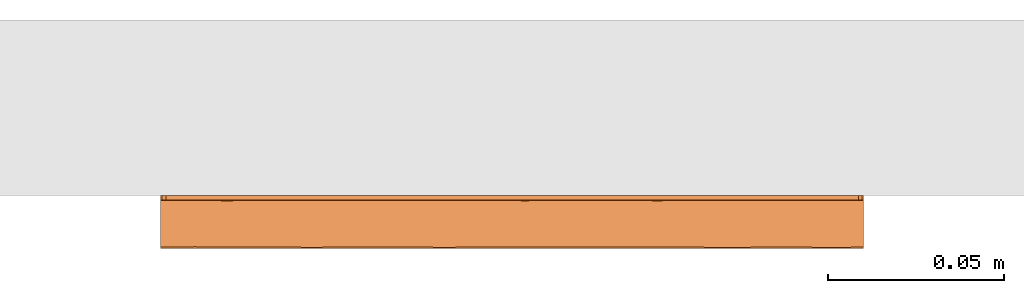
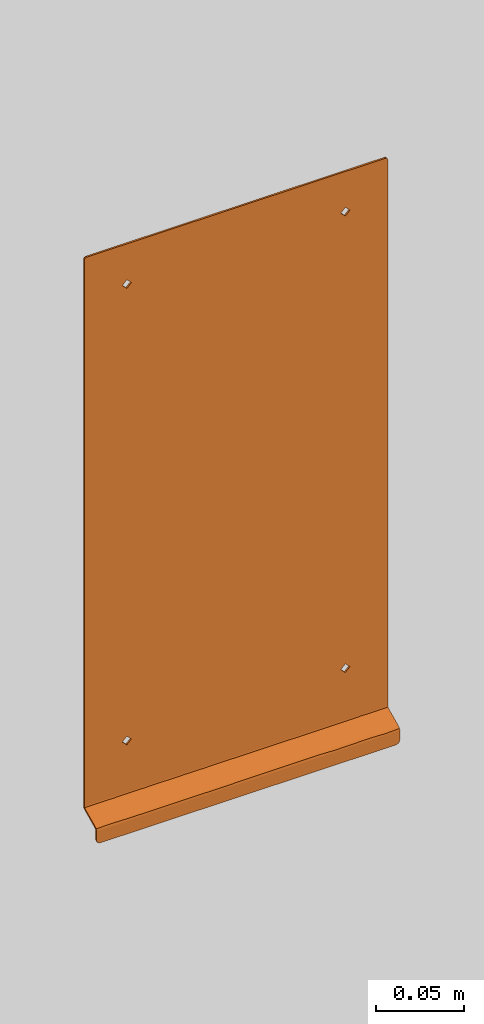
# One storey, part 2 of 2: 1 proxy.
"""IFC2X3 building model written with IfcOpenShell, lengths in millimetres."""

from ifc_helpers import new_model, entity, si_unit, converted_unit, derived_unit, direction, frame, origin, place, context, subcontext, project, spatial, faceted_brep, source, transform, mapped, element, save


model = new_model("IFC2X3")

# Units and contexts
model_context = context("Model", 3, precision=1e-05, world=origin(), true_north=direction((2.0, 6.12303176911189e-17, 1.0)))
context_of_model = context(None, 3, precision=1e-05, world=origin(), true_north=direction((2.0, 6.12303176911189e-17, 1.0)))
body_context = subcontext(model_context, "Body", "Model", "MODEL_VIEW")
ifc_project = project(units=[si_unit("LENGTHUNIT", "METRE", prefix="MILLI"), si_unit("AREAUNIT", "SQUARE_METRE"), si_unit("VOLUMEUNIT", "CUBIC_METRE"), converted_unit("PLANEANGLEUNIT", "DEGREE", entity("IfcRatioMeasure", 0.0174532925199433), si_unit("PLANEANGLEUNIT", "RADIAN"), dimensions=[0, 0, 0, 0, 0, 0, 0]), si_unit("MASSUNIT", "GRAM", prefix="KILO"), si_unit("TIMEUNIT", "SECOND"), si_unit("THERMODYNAMICTEMPERATUREUNIT", "KELVIN"), derived_unit("THERMALTRANSMITTANCEUNIT", [(si_unit("MASSUNIT", "GRAM", prefix="KILO"), 1), (si_unit("THERMODYNAMICTEMPERATUREUNIT", "KELVIN"), -1), (si_unit("TIMEUNIT", "SECOND"), -3)]), derived_unit("VOLUMETRICFLOWRATEUNIT", [(si_unit("LENGTHUNIT", "METRE"), 3), (si_unit("TIMEUNIT", "SECOND"), -1)]), si_unit("POWERUNIT", "WATT")], contexts=[model_context, context_of_model])

# Site, building, storey
site_placement = place(None, origin())
site = spatial("IfcSite", under=ifc_project, at=site_placement, Name="Default", CompositionType="ELEMENT")
building_placement = place(site_placement, origin())
building = spatial("IfcBuilding", under=site, at=building_placement, CompositionType="ELEMENT")
storey_placement = place(building_placement, origin())
storey = spatial("IfcBuildingStorey", under=building, at=storey_placement, Name="Level 1", CompositionType="ELEMENT", Elevation=0.0)

# Proxy
shared_shape = source(origin(), body_context, "Body", "Brep", [
    faceted_brep([(-100.0, -14.6113849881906, 10.352424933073), (-100.0, -13.5672608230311, 11.2680972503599), (-100.0, -1.94926779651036, 16.6856563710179), (-100.0, -1.40323078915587, 17.1645179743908), (-100.0, -1.2000000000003, 17.8617712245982), (-100.0, -1.20000000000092, 398.477823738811), (-100.0, 0.0, 398.477823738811), (-100.0, 0.0, 17.8617712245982), (-100.0, -0.391161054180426, 16.5197584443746), (-100.0, -1.44212588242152, 15.5980870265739), (-100.0, -13.0601189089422, 10.1805279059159), (-100.0, -13.5993152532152, 9.70766540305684), (-100.0, -13.8000000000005, 9.01914722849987), (-100.0, -13.8000000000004, 2.51072830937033), (-100.0, -15.0, 2.51072830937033), (-100.0, -15.0, 9.01914722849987), (100.0, 0.0, 17.8617712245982), (100.0, 0.0, 398.548714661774), (100.0, -1.19999999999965, 398.548714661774), (100.0, -1.19999999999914, 17.8617712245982), (100.0, -1.4032307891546, 17.1645179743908), (100.0, -1.94926779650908, 16.6856563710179), (100.0, -13.5672608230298, 11.2680972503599), (100.0, -14.6113849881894, 10.352424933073), (100.0, -15.0, 9.01914722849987), (100.0, -15.0, 2.47573554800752), (100.0, -13.7999999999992, 2.47573554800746), (100.0, -13.7999999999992, 9.01914722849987), (100.0, -13.5993152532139, 9.70766540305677), (100.0, -13.060118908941, 10.1805279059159), (100.0, -1.44212588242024, 15.5980870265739), (100.0, -0.391161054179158, 16.5197584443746), (-98.4778237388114, 0.0, 400.0), (-98.4778237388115, -1.20000000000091, 400.0), (98.5487146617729, -1.19999999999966, 400.0), (98.5487146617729, 0.0, 400.0), (-99.5541648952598, 0.0, 399.554164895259), (-72.0, 0.0, 375.0), (-75.0, 0.0, 372.0), (-75.0, 0.0, 54.0), (72.0, 0.0, 375.0), (99.5749283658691, 0.0, 399.57492836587), (75.0, 0.0, 372.0), (75.0, 0.0, 54.0), (72.0, 0.0, 51.0), (86.2041782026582, 0.0, 17.8617712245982), (77.5916418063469, 0.0, 17.8617712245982), (66.387463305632, 0.0, 17.8617712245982), (55.1832848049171, 0.0, 17.8617712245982), (43.9791063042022, 0.0, 17.8617712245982), (32.7749278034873, 0.0, 17.8617712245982), (21.5707493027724, 0.0, 17.8617712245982), (10.3665696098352, 0.0, 17.8617712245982), (-3.42925099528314, 0.0, 17.8617712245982), (-17.2250727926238, 0.0, 17.8617712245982), (-31.0208945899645, 0.0, 17.8617712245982), (-44.8167151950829, 0.0, 17.8617712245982), (-58.6125358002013, 0.0, 17.8617712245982), (-72.408357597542, 0.0, 17.8617712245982), (-86.2041793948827, 0.0, 17.8617712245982), (-72.0, 0.0, 51.0), (69.0, 0.0, 54.0), (72.0, 0.0, 369.0), (72.0, 0.0, 57.0), (-69.0, 0.0, 54.0), (-72.0, 0.0, 57.0), (-72.0, 0.0, 369.0), (-69.0, 0.0, 372.0), (69.0, 0.0, 372.0), (86.2041786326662, -1.44212588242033, 15.5980870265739), (-79.3062684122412, -0.391161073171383, 16.5197584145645), (81.8979095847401, -0.391161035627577, 16.5197584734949), (5.74472823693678, -0.413236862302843, 16.4857196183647), (-5.60209085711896, -0.442536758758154, 16.4423316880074), (60.7853724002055, -0.339568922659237, 16.6044029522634), (-51.0858661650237, -0.391161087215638, 16.5197583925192), (37.9117930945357, -0.343484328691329, 16.5977065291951), (50.0000002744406, -1.44212588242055, 15.5980870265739), (37.500000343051, -1.44212588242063, 15.5980870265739), (-27.3344386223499, -0.41138728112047, 16.4885254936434), (-39.2146266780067, -0.39116108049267, 16.519758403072), (25.0000004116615, -1.44212588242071, 15.5980870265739), (27.1728358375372, -0.342700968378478, 16.5990424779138), (-11.2041779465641, -1.44212588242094, 15.5980870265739), (5.48882311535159e-07, -1.44212588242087, 15.5980870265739), (16.4381053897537, -0.343305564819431, 16.5980112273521), (-44.8167145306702, -1.44212588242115, 15.5980870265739), (-58.612535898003, -1.44212588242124, 15.5980870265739), (-89.6531342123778, -0.415703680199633, 16.481990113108), (-16.3580350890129, -0.440851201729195, 16.4447752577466), (75.0, -1.4421258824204, 15.5980870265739), (62.5000002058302, -1.44212588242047, 15.5980870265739), (71.3549565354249, -0.336331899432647, 16.6099754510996), (-72.4083572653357, -1.44212588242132, 15.5980870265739), (-86.2041786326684, -1.44212588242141, 15.5980870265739), (50.0514557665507, -0.343281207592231, 16.5980527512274), (12.5000004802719, -1.44212588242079, 15.5980870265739), (-22.4083564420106, -1.44212588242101, 15.5980870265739), (-65.5104474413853, -0.391161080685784, 16.5197584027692), (-33.612534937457, -1.44212588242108, 15.5980870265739), (95.0592034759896, -13.060118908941, 10.1805279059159), (87.4999988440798, -13.060118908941, 10.1805279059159), (81.2499989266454, -13.0601189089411, 10.1805279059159), (74.9999990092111, -13.0601189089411, 10.1805279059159), (68.7499990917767, -13.0601189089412, 10.1805279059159), (62.4999991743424, -13.0601189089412, 10.1805279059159), (56.2499992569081, -13.0601189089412, 10.1805279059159), (49.9999993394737, -13.0601189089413, 10.1805279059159), (43.7499994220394, -13.0601189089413, 10.1805279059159), (37.499999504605, -13.0601189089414, 10.1805279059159), (31.2499995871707, -13.0601189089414, 10.1805279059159), (24.9999996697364, -13.0601189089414, 10.1805279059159), (18.749999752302, -13.0601189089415, 10.1805279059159), (12.4999998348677, -13.0601189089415, 10.1805279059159), (6.24999991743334, -13.0601189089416, 10.1805279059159), (0.0, -13.0601189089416, 10.1805279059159), (-7.5592046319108, -13.0601189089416, 10.1805279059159), (-15.11840794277, -13.0601189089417, 10.1805279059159), (-22.6776112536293, -13.0601189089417, 10.1805279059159), (-30.236815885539, -13.0601189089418, 10.1805279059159), (-37.7960205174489, -13.0601189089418, 10.1805279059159), (-45.3552238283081, -13.0601189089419, 10.1805279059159), (-52.9144271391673, -13.0601189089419, 10.1805279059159), (-60.4736317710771, -13.060118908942, 10.1805279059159), (-65.414426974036, -13.060118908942, 10.1805279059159), (-70.3552234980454, -13.060118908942, 10.1805279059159), (-75.2960200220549, -13.0601189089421, 10.1805279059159), (-80.2368152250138, -13.0601189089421, 10.1805279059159), (-85.1776117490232, -13.0601189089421, 10.1805279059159), (-90.1184082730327, -13.0601189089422, 10.1805279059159), (-95.0592034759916, -13.0601189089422, 10.1805279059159), (62.9440280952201, -13.6203383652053, 9.67349694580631), (57.2274896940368, -13.6328809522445, 9.651901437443), (-46.84345592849, -13.5913744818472, 9.71997410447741), (-41.5756216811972, -13.5609737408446, 9.76444107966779), (-47.0855721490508, -13.8000000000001, 9.01914722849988), (9.37499910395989, -13.6094500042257, 9.69149249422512), (20.947262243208, -13.7999999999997, 9.01914722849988), (14.9255129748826, -13.5862820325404, 9.72770837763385), (21.8749990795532, -13.5656196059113, 9.75789989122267), (90.1184088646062, -13.7999999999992, 9.01914722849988), (92.5888056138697, -13.5993152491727, 9.70766540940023), (95.0592038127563, -13.7999999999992, 9.01914722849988), (34.3749990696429, -13.609449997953, 9.69149250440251), (-51.8171188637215, -13.6648954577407, 9.59186354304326), (-84.8815922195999, -13.8000000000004, 9.01914722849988), (-87.5000000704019, -13.5993152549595, 9.70766540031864), (-81.776796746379, -13.6250360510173, 9.66552161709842), (-16.6066408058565, -13.5913744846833, 9.71997410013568), (-11.3388065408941, -13.5609737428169, 9.76444107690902), (-16.8487565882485, -13.7999999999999, 9.01914722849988), (60.4736317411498, -13.7999999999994, 9.01914722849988), (3.12499913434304, -13.5902637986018, 9.72167138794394), (-2.32127292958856, -13.5805386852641, 9.73628775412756), (-21.5803037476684, -13.664895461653, 9.59186353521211), (-93.0489290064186, -13.5993152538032, 9.70766540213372), (30.8288546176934, -13.7999999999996, 9.01914722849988), (27.792233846, -13.6044838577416, 9.69948431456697), (-31.7250483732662, -13.5913744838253, 9.71997410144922), (-26.457214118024, -13.5609737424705, 9.76444107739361), (-31.9671656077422, -13.8, 9.01914722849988), (-1.73035004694, -13.7999999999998, 9.01914722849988), (-66.6077467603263, -13.5841456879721, 9.73091712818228), (-62.2039811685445, -13.8000000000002, 9.01914722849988), (-69.7631844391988, -13.8000000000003, 9.01914722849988), (86.9336049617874, -13.6336858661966, 9.65048182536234), (-36.6987113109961, -13.6648954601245, 9.59186353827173), (-72.8256214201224, -13.611108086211, 9.68879477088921), (39.8315585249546, -13.581963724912, 9.73417294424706), (67.7323223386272, -13.6639573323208, 9.59373744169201), (78.1249995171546, -13.579523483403, 9.73778883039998), (80.2368164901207, -13.7999999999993, 9.01914722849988), (75.296020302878, -13.7999999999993, 9.01914722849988), (-90.1184076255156, -13.8000000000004, 9.01914722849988), (-95.0592038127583, -13.8000000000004, 9.01914722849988), (-77.322387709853, -13.8000000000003, 9.01914722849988), (85.1776126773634, -13.7999999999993, 9.01914722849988), (-61.6512479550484, -13.5717086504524, 9.74919326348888), (-56.6940292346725, -13.5609737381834, 9.76444108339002), (-54.6447766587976, -13.8000000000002, 9.01914722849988), (13.3880589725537, -13.7999999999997, 9.01914722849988), (5.82885446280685, -13.7999999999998, 9.01914722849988), (-9.28955331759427, -13.7999999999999, 9.01914722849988), (72.4522755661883, -13.5916082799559, 9.7196160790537), (65.4144279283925, -13.7999999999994, 9.01914722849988), (70.3552241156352, -13.7999999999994, 9.01914722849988), (48.1216394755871, -13.6086118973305, 9.69285044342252), (55.5328355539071, -13.7999999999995, 9.01914722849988), (50.5920393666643, -13.7999999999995, 9.01914722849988), (25.8880584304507, -13.7999999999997, 9.01914722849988), (40.7104469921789, -13.7999999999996, 9.01914722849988), (35.7696508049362, -13.7999999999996, 9.01914722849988), (45.6512431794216, -13.7999999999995, 9.01914722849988), (-24.4079610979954, -13.8, 9.01914722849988), (-39.5263688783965, -13.8000000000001, 9.01914722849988), (99.2748738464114, -13.7999999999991, 0.725126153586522), (97.5242644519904, -13.7999999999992, 0.0), (-97.4892716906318, -13.8000000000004, 0.0), (-99.2646247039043, -13.8000000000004, 0.735375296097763), (-97.4892716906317, -15.0, 0.0), (97.5242644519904, -15.0, 0.0), (-99.2646247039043, -15.0, 0.735375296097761), (99.2748738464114, -15.0, 0.725126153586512), (86.2491501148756, -15.0, 9.01914722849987), (72.4983002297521, -15.0, 9.01914722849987), (61.2491501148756, -15.0, 9.01914722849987), (50.0, -15.0, 9.01914722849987), (37.499999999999, -15.0, 9.01914722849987), (25.0, -15.0, 9.01914722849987), (12.499999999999, -15.0, 9.01914722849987), (0.0, -15.0, 9.01914722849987), (-12.500000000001, -15.0, 9.01914722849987), (-25.0, -15.0, 9.01914722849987), (-37.500000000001, -15.0, 9.01914722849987), (-50.0, -15.0, 9.01914722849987), (-62.500000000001, -15.0, 9.01914722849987), (-75.0, -15.0, 9.01914722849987), (-86.2491501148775, -15.0, 9.01914722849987), (-17.4949003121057, -13.5672608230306, 11.2680972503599), (-18.7500017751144, -14.6790744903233, 10.2396892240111), (-7.8459400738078, -14.6204493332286, 10.3380888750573), (66.8737217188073, -14.6682279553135, 10.2586928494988), (57.7320580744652, -14.7197556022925, 10.1646966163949), (27.3299450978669, -14.5701874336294, 10.4149877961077), (21.2559499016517, -13.5672608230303, 11.2680972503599), (15.6313716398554, -14.5692460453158, 10.4163704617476), (-56.2500010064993, -14.6709831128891, 10.2539024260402), (77.5016998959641, -13.5672608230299, 11.2680972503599), (81.8754205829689, -14.6113850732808, 10.3524247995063), (86.2491503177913, -13.5672608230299, 11.2680972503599), (66.2525501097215, -13.56726082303, 11.2680972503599), (55.0033997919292, -13.5672608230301, 11.2680972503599), (48.8133075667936, -14.564581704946, 10.4231918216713), (-44.9966002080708, -13.5672608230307, 11.2680972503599), (-58.7474498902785, -13.5672608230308, 11.2680972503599), (-45.7842363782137, -14.643097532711, 10.301288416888), (43.7542494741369, -13.5672608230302, 11.2680972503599), (38.1296711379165, -14.5504791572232, 10.443524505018), (4.41972758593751, -14.5890820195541, 10.3868038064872), (90.9377104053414, -14.7489889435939, 10.1066821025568), (-80.6245755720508, -14.6113849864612, 10.3524249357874), (-29.297370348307, -14.6385870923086, 10.3087327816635), (-90.3122877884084, -14.5204693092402, 10.4854027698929), (-69.7785878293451, -14.6480014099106, 10.2931272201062), (-72.4983001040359, -13.5672608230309, 11.2680972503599), (-86.2491503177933, -13.567260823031, 11.2680972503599), (32.5050996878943, -13.5672608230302, 11.2680972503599), (10.0067995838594, -13.5672608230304, 11.2680972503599), (-3.74405009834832, -13.5672608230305, 11.2680972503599), (-31.2457505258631, -13.5672608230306, 11.2680972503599), (95.0279613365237, -1.94926779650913, 16.6856563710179), (87.4999999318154, -1.94926779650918, 16.6856563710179), (81.2500000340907, -1.94926779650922, 16.6856563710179), (75.0, -1.94926779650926, 16.6856563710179), (68.7499999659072, -1.9492677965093, 16.6856563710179), (62.5000000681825, -1.94926779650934, 16.6856563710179), (56.2499998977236, -1.94926779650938, 16.6856563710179), (50.0, -1.94926779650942, 16.6856563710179), (43.7500001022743, -1.94926779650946, 16.6856563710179), (37.4999999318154, -1.9492677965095, 16.6856563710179), (31.2500000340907, -1.94926779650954, 16.6856563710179), (25.000000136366, -1.94926779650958, 16.6856563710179), (18.7499999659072, -1.94926779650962, 16.6856563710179), (12.5000000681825, -1.94926779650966, 16.6856563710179), (6.2500001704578, -1.9492677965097, 16.6856563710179), (0.0, -1.94926779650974, 16.6856563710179), (-6.25000017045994, -1.94926779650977, 16.6856563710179), (-12.5000000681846, -1.94926779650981, 16.6856563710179), (-18.7499999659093, -1.94926779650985, 16.6856563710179), (-25.0000001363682, -1.94926779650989, 16.6856563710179), (-31.2500000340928, -1.94926779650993, 16.6856563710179), (-37.4999999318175, -1.94926779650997, 16.6856563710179), (-43.7500001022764, -1.94926779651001, 16.6856563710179), (-50.0, -1.94926779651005, 16.6856563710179), (-57.5279614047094, -1.9492677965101, 16.6856563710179), (-65.0559225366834, -1.94926779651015, 16.6856563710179), (-72.5838836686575, -1.9492677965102, 16.6856563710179), (-80.1118448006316, -1.94926779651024, 16.6856563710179), (-85.0838834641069, -1.94926779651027, 16.6856563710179), (-90.0559224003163, -1.94926779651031, 16.6856563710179), (-95.0279613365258, -1.94926779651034, 16.6856563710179), (-21.8750009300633, -1.43194915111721, 17.1213659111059), (-20.4473798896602, -1.1999999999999, 17.8617712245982), (-25.4194189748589, -1.19999999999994, 17.8617712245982), (65.6249985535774, -1.40002256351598, 17.1695796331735), (71.0193015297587, -1.42882008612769, 17.1258903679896), (87.4999992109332, -1.38031301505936, 17.2018687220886), (84.9440773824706, -1.19999999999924, 17.8617712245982), (81.7738721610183, -1.36940774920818, 17.2206927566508), (-76.34786461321, -1.40323078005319, 17.1645179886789), (-67.6817482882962, -1.40581414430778, 17.1604794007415), (-70.1677675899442, -1.20000000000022, 17.8617712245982), (-85.7815899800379, -1.40323078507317, 17.1645179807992), (-92.5419419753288, -1.4032307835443, 17.1645179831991), (15.6249986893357, -1.43034900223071, 17.1236745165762), (9.66446534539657, -1.19999999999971, 17.8617712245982), (10.1061282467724, -1.42362813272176, 17.1334893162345), (-2.75304994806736, -1.40546410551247, 17.1610246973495), (-8.78564918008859, -1.3852620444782, 17.1935596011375), (34.7775949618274, -1.40690198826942, 17.1587885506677), (40.6249985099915, -1.43701770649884, 17.1141229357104), (-60.2236899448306, -1.20000000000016, 17.8617712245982), (-65.1957285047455, -1.20000000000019, 17.8617712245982), (-59.6194464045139, -1.41791532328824, 17.1419865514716), (-55.2516513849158, -1.20000000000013, 17.8617712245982), (-40.3355351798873, -1.20000000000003, 17.8617712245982), (-45.3075737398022, -1.20000000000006, 17.8617712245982), (-39.8612584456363, -1.42293235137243, 17.1345165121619), (-35.3634960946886, -1.2, 17.8617712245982), (3.12499880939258, -1.43602595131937, 17.1155319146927), (95.0279609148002, -1.19999999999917, 17.8617712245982), (-95.0279609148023, -1.20000000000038, 17.8617712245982), (28.6981164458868, -1.38181921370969, 17.1993249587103), (53.1249984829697, -1.42860521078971, 17.1262025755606), (47.6113126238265, -1.42391432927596, 17.1330674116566), (-54.169879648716, -1.38954564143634, 17.1864795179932), (-15.6250010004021, -1.41213223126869, 17.1507384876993), (23.2170823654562, -1.40655499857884, 17.1593272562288), (24.7203879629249, -1.19999999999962, 17.8617712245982), (90.0559223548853, -1.1999999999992, 17.8617712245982), (94.755309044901, -1.40323079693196, 17.1645179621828), (-81.0647272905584, -1.44928433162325, 17.0970167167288), (-80.1118447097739, -1.20000000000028, 17.8617712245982), (-85.0838837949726, -1.20000000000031, 17.8617712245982), (-90.0559223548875, -1.20000000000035, 17.8617712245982), (76.419132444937, -1.40692229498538, 17.1587570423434), (77.4161160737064, -1.19999999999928, 17.8617712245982), (69.8881547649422, -1.19999999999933, 17.8617712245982), (59.7343899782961, -1.40595585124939, 17.1602588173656), (2.13650403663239, -1.19999999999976, 17.8617712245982), (-5.39145727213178, -1.19999999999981, 17.8617712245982), (-34.3750008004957, -1.3817817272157, 17.1993881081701), (-27.7563293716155, -1.40559223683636, 17.1608250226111), (-75.1398061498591, -1.20000000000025, 17.8617712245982), (62.360193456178, -1.19999999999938, 17.8617712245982), (54.8322321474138, -1.19999999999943, 17.8617712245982), (47.3042708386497, -1.19999999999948, 17.8617712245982), (32.2483492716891, -1.19999999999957, 17.8617712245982), (39.7763100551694, -1.19999999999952, 17.8617712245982), (17.1924266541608, -1.19999999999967, 17.8617712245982), (-12.919418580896, -1.19999999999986, 17.8617712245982), (-30.3914575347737, -1.19999999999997, 17.8617712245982), (-50.279612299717, -1.20000000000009, 17.8617712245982), (-47.7935934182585, -1.39852685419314, 17.1719572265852), (-75.0, -1.2000000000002, 54.0), (-75.0, -1.20000000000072, 372.0), (-72.0, -1.2000000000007, 375.0), (-99.5541648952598, -1.20000000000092, 399.554164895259), (-72.0, -1.20000000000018, 51.0), (72.0, -1.19999999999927, 51.0), (75.0, -1.19999999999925, 54.0), (75.0, -1.19999999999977, 372.0), (72.0, -1.19999999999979, 375.0), (99.5749283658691, -1.19999999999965, 399.57492836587), (69.0, -1.1999999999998, 372.0), (72.0, -1.19999999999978, 369.0), (72.0, -1.19999999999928, 57.0), (-72.0, -1.20000000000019, 57.0), (-72.0, -1.20000000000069, 369.0), (-69.0, -1.20000000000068, 372.0), (-69.0, -1.20000000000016, 54.0), (69.0, -1.19999999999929, 54.0)], [[[0, 1, 2, 3, 4, 5, 6, 7, 8, 9, 10, 11, 12, 13, 14, 15]], [[16, 17, 18, 19, 20, 21, 22, 23, 24, 25, 26, 27, 28, 29, 30, 31]], [[32, 33, 34, 35]], [[6, 36, 32]], [[6, 32, 37]], [[37, 38, 6]], [[6, 38, 39]], [[6, 39, 7]], [[32, 40, 37]], [[40, 32, 35]], [[35, 17, 40]], [[35, 41, 17]], [[42, 40, 17]], [[42, 17, 43]], [[43, 17, 16]], [[43, 16, 44]], [[44, 16, 45]], [[44, 45, 46]], [[44, 46, 47]], [[44, 47, 48]], [[44, 48, 49]], [[44, 49, 50]], [[44, 50, 51]], [[44, 51, 52]], [[44, 52, 53]], [[44, 53, 54]], [[44, 54, 55]], [[44, 55, 56]], [[44, 56, 57]], [[44, 57, 58]], [[44, 58, 59]], [[44, 59, 7]], [[7, 39, 60]], [[7, 60, 44]], [[44, 60, 61]], [[42, 43, 62]], [[62, 43, 63]], [[64, 63, 61]], [[65, 63, 64]], [[62, 63, 65]], [[39, 66, 65]], [[62, 65, 66]], [[39, 38, 66]], [[62, 66, 67]], [[67, 37, 68]], [[67, 68, 62]], [[40, 68, 37]], [[61, 60, 64]], [[45, 16, 31]], [[31, 30, 69]], [[70, 59, 58]], [[69, 71, 31]], [[53, 72, 73]], [[74, 48, 47]], [[56, 75, 57]], [[72, 53, 52]], [[76, 77, 78]], [[55, 54, 79]], [[55, 79, 80]], [[81, 82, 78]], [[73, 54, 53]], [[83, 73, 84]], [[85, 51, 82]], [[86, 87, 75, 80]], [[88, 9, 8]], [[70, 88, 59]], [[73, 83, 89]], [[90, 91, 92]], [[71, 46, 45]], [[7, 59, 88]], [[70, 93, 94]], [[31, 71, 45]], [[90, 71, 69]], [[91, 74, 92]], [[71, 92, 46]], [[74, 77, 95]], [[54, 73, 89]], [[51, 85, 52]], [[96, 72, 85]], [[84, 73, 72]], [[96, 84, 72]], [[83, 97, 89]], [[50, 82, 51]], [[79, 54, 89]], [[79, 89, 97]], [[50, 76, 82]], [[85, 81, 96]], [[78, 82, 76]], [[58, 57, 98]], [[55, 80, 56]], [[74, 95, 48]], [[86, 80, 99]], [[93, 98, 75, 87]], [[79, 97, 99]], [[79, 99, 80]], [[80, 75, 56]], [[85, 82, 81]], [[52, 85, 72]], [[50, 49, 76]], [[76, 49, 95]], [[74, 47, 92]], [[77, 74, 91]], [[76, 95, 77]], [[49, 48, 95]], [[46, 92, 47]], [[90, 92, 71]], [[70, 94, 88]], [[98, 70, 58]], [[98, 93, 70]], [[75, 98, 57]], [[9, 88, 94]], [[88, 8, 7]], [[9, 94, 93, 87, 86, 99, 97, 83, 84, 96, 81, 78, 77, 91, 90, 69, 30, 29, 100, 101, 102, 103, 104, 105, 106, 107, 108, 109, 110, 111, 112, 113, 114, 115, 116, 117, 118, 119, 120, 121, 122, 123, 124, 125, 126, 127, 128, 129, 130, 10]], [[105, 131, 132]], [[133, 134, 135]], [[114, 113, 136]], [[137, 138, 139]], [[140, 141, 142]], [[142, 141, 28]], [[110, 109, 143]], [[100, 28, 141]], [[133, 135, 144]], [[145, 146, 147]], [[148, 149, 150]], [[151, 132, 131]], [[152, 153, 115]], [[148, 150, 154]], [[129, 128, 146, 155, 11, 10, 130]], [[100, 29, 28]], [[156, 157, 143]], [[158, 159, 160]], [[153, 152, 161]], [[162, 163, 164]], [[152, 115, 114]], [[165, 101, 141]], [[138, 136, 113]], [[158, 160, 166]], [[126, 167, 147]], [[143, 109, 168]], [[104, 169, 131]], [[114, 136, 152]], [[170, 171, 172]], [[146, 145, 173, 174, 12, 11, 155]], [[28, 27, 142]], [[141, 140, 165]], [[170, 102, 165]], [[102, 170, 103]], [[148, 118, 117]], [[158, 120, 119]], [[146, 128, 147]], [[100, 141, 101]], [[162, 164, 167]], [[167, 175, 147]], [[176, 171, 165, 140]], [[102, 101, 165]], [[147, 175, 145]], [[162, 124, 177]], [[126, 125, 167]], [[126, 147, 128, 127]], [[167, 164, 175]], [[178, 179, 163]], [[125, 162, 167]], [[177, 178, 163]], [[136, 180, 181]], [[180, 136, 138]], [[181, 161, 152]], [[161, 182, 153]], [[181, 152, 136]], [[172, 183, 170]], [[183, 103, 170]], [[116, 149, 117]], [[118, 159, 119]], [[120, 134, 121]], [[171, 170, 165]], [[184, 151, 131]], [[105, 104, 131]], [[104, 103, 183]], [[185, 169, 183]], [[169, 184, 131]], [[186, 168, 108]], [[107, 132, 186]], [[132, 107, 106, 105]], [[187, 188, 132, 151]], [[153, 116, 115]], [[149, 116, 153]], [[111, 157, 139]], [[138, 137, 180]], [[112, 139, 138]], [[111, 139, 112]], [[138, 113, 112]], [[157, 189, 139]], [[190, 191, 168, 192]], [[157, 110, 143]], [[157, 111, 110]], [[143, 168, 191]], [[172, 185, 183]], [[192, 186, 188]], [[188, 186, 132]], [[168, 109, 108]], [[168, 186, 192]], [[107, 186, 108]], [[184, 169, 185]], [[183, 169, 104]], [[182, 149, 153]], [[148, 117, 149]], [[149, 182, 150]], [[159, 193, 160]], [[134, 194, 135]], [[154, 159, 118]], [[193, 159, 154]], [[158, 119, 159]], [[166, 134, 120]], [[133, 122, 121]], [[194, 134, 166]], [[133, 121, 134]], [[122, 178, 123]], [[144, 178, 122]], [[177, 123, 178]], [[179, 178, 144]], [[193, 154, 150]], [[148, 154, 118]], [[194, 166, 160]], [[158, 166, 120]], [[179, 144, 135]], [[133, 144, 122]], [[137, 139, 189]], [[157, 156, 189]], [[162, 177, 163]], [[191, 156, 143]], [[123, 177, 124]], [[162, 125, 124]], [[13, 12, 174, 173, 145, 175, 164, 163, 179, 135, 194, 160, 193, 150, 182, 161, 181, 180, 137, 189, 156, 191, 190, 192, 188, 187, 151, 184, 185, 172, 171, 176, 140, 142, 27, 26, 195, 196, 197, 198]], [[199, 197, 196, 200]], [[201, 199, 200, 202, 25, 24, 203, 204, 205, 206, 207, 208, 209, 210, 211, 212, 213, 214, 215, 216, 217, 15, 14]], [[218, 219, 220]], [[205, 221, 222]], [[223, 224, 225]], [[214, 226, 215]], [[227, 228, 229]], [[227, 230, 221]], [[231, 232, 222]], [[233, 234, 226]], [[226, 235, 233]], [[232, 236, 237]], [[209, 225, 238]], [[228, 203, 239]], [[216, 240, 217]], [[241, 235, 213]], [[15, 217, 242]], [[240, 242, 217]], [[240, 243, 244]], [[22, 229, 239]], [[24, 23, 239]], [[1, 0, 242]], [[244, 245, 240]], [[228, 239, 229]], [[204, 203, 228]], [[237, 207, 232]], [[207, 223, 208]], [[207, 237, 223]], [[221, 228, 227]], [[243, 234, 244]], [[246, 237, 236]], [[240, 216, 243]], [[204, 221, 205]], [[242, 240, 245]], [[237, 246, 223]], [[232, 207, 206]], [[225, 224, 247]], [[238, 225, 247]], [[223, 246, 224]], [[223, 225, 208]], [[222, 206, 205]], [[231, 236, 232]], [[238, 210, 209]], [[225, 209, 208]], [[247, 248, 238]], [[219, 212, 211]], [[220, 210, 238]], [[248, 218, 220]], [[228, 221, 204]], [[222, 230, 231]], [[216, 215, 243]], [[243, 215, 226]], [[226, 214, 235]], [[243, 226, 234]], [[241, 212, 219]], [[241, 219, 218]], [[235, 214, 213]], [[233, 235, 249]], [[219, 211, 220]], [[241, 218, 249]], [[210, 220, 211]], [[238, 248, 220]], [[235, 241, 249]], [[213, 212, 241]], [[24, 239, 203]], [[239, 23, 22]], [[1, 242, 245]], [[242, 0, 15]], [[222, 221, 230]], [[206, 222, 232]], [[1, 245, 244, 234, 233, 249, 218, 248, 247, 224, 246, 236, 231, 230, 227, 229, 22, 21, 250, 251, 252, 253, 254, 255, 256, 257, 258, 259, 260, 261, 262, 263, 264, 265, 266, 267, 268, 269, 270, 271, 272, 273, 274, 275, 276, 277, 278, 279, 280, 2]], [[281, 282, 283]], [[284, 254, 285]], [[286, 287, 288]], [[289, 290, 291]], [[280, 279, 278, 292, 293]], [[294, 295, 296]], [[266, 297, 298]], [[299, 259, 300]], [[301, 302, 303, 304]], [[302, 290, 303]], [[305, 306, 307, 308]], [[309, 264, 296]], [[20, 19, 310]], [[4, 3, 311]], [[293, 3, 280]], [[260, 312, 261]], [[257, 313, 314]], [[274, 315, 303]], [[302, 291, 290]], [[268, 267, 316]], [[254, 253, 285]], [[317, 294, 262]], [[317, 312, 318]], [[314, 258, 257]], [[319, 320, 310]], [[251, 286, 288]], [[20, 310, 320]], [[321, 289, 322]], [[292, 323, 324, 293]], [[251, 320, 286]], [[286, 319, 287]], [[250, 21, 20]], [[3, 2, 280]], [[325, 326, 327]], [[326, 325, 288]], [[288, 252, 251]], [[293, 311, 3]], [[256, 328, 313]], [[277, 289, 321]], [[292, 278, 321]], [[250, 20, 320]], [[329, 330, 297]], [[253, 252, 325]], [[288, 287, 326]], [[331, 270, 332]], [[332, 281, 283]], [[289, 277, 276]], [[293, 324, 311]], [[333, 322, 289, 291]], [[288, 325, 252]], [[255, 284, 328]], [[284, 327, 334]], [[284, 334, 328]], [[284, 255, 254]], [[325, 327, 285]], [[313, 257, 256]], [[328, 334, 335]], [[256, 255, 328]], [[336, 314, 313]], [[335, 313, 328]], [[314, 336, 300]], [[313, 335, 336]], [[258, 300, 259]], [[300, 258, 314]], [[337, 299, 338]], [[336, 338, 300]], [[260, 259, 299]], [[338, 299, 300]], [[260, 299, 312]], [[312, 317, 261]], [[337, 312, 299]], [[312, 337, 318]], [[284, 285, 327]], [[325, 285, 253]], [[263, 262, 294]], [[262, 261, 317]], [[339, 295, 294]], [[317, 318, 339]], [[296, 263, 294]], [[339, 294, 317]], [[265, 264, 309]], [[297, 309, 329]], [[264, 263, 296]], [[295, 309, 296]], [[297, 265, 309]], [[295, 329, 309]], [[298, 316, 267]], [[340, 282, 316]], [[266, 265, 297]], [[330, 298, 297]], [[266, 298, 267]], [[298, 330, 340]], [[281, 268, 316]], [[268, 281, 269]], [[340, 316, 298]], [[332, 269, 281]], [[282, 281, 316]], [[270, 269, 332]], [[271, 270, 331]], [[271, 331, 307]], [[341, 331, 332]], [[331, 308, 307]], [[306, 342, 343]], [[315, 274, 273]], [[272, 271, 307]], [[272, 343, 273]], [[272, 307, 343]], [[307, 306, 343]], [[342, 315, 343]], [[273, 343, 315]], [[315, 304, 303]], [[283, 341, 332]], [[303, 275, 274]], [[275, 303, 290]], [[290, 276, 275]], [[276, 290, 289]], [[250, 320, 251]], [[322, 323, 321]], [[286, 320, 319]], [[277, 321, 278]], [[323, 292, 321]], [[331, 341, 308]], [[315, 342, 304]], [[5, 4, 344]], [[5, 344, 345]], [[345, 346, 5]], [[33, 5, 346]], [[5, 33, 347]], [[344, 4, 348]], [[348, 4, 349]], [[349, 4, 311]], [[349, 311, 324]], [[349, 324, 323]], [[349, 323, 322]], [[349, 322, 333]], [[349, 333, 291]], [[349, 291, 302]], [[349, 302, 301]], [[349, 301, 304]], [[349, 304, 342]], [[349, 342, 306]], [[349, 306, 305]], [[349, 305, 308]], [[349, 308, 341]], [[349, 341, 283]], [[349, 283, 282]], [[349, 282, 340]], [[349, 340, 330]], [[349, 330, 329]], [[349, 329, 295]], [[349, 295, 339]], [[349, 339, 318]], [[349, 318, 337]], [[349, 337, 338]], [[349, 338, 336]], [[349, 336, 335]], [[349, 335, 334]], [[349, 334, 327]], [[349, 327, 326]], [[349, 326, 287]], [[349, 287, 319]], [[349, 319, 310]], [[349, 310, 19]], [[19, 350, 349]], [[18, 350, 19]], [[351, 350, 18]], [[352, 351, 18]], [[18, 34, 352]], [[34, 18, 353]], [[352, 34, 33]], [[33, 346, 352]], [[354, 352, 346]], [[351, 355, 350]], [[350, 355, 356]], [[356, 355, 357]], [[357, 355, 358]], [[359, 358, 355]], [[359, 355, 354]], [[346, 359, 354]], [[358, 344, 357]], [[345, 344, 358]], [[357, 360, 356]], [[361, 360, 348]], [[356, 360, 361]], [[361, 348, 349]], [[358, 66, 38, 345]], [[359, 67, 66, 358]], [[346, 37, 67, 359]], [[345, 38, 37, 346]], [[355, 62, 68, 354]], [[351, 42, 62, 355]], [[352, 40, 42, 351]], [[354, 68, 40, 352]], [[348, 60, 39, 344]], [[360, 64, 60, 348]], [[357, 65, 64, 360]], [[344, 39, 65, 357]], [[349, 44, 61, 361]], [[350, 43, 44, 349]], [[356, 63, 43, 350]], [[361, 61, 63, 356]], [[5, 347, 36, 6]], [[36, 347, 33, 32]], [[34, 353, 41, 35]], [[41, 353, 18, 17]], [[25, 202, 195, 26]], [[195, 202, 200, 196]], [[199, 201, 198, 197]], [[198, 201, 14, 13]]]),
])
proxy_placement = place(storey_placement, frame((1298.20150339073, 3952.69853342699, 327.387690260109)))
element("IfcBuildingElementProxy", 1, at=proxy_placement, inside=storey, Name="BC2000-200mm:BC2000 Dolphin Splash Panel", ObjectType="BC2000 Dolphin Splash Panel", CompositionType="ELEMENT", context=body_context, shape_type="MappedRepresentation", body=[
    mapped(shared_shape, transform((0.0, 0.0, 0.0), scale=1.0)),
])

save(model, "model.ifc")
